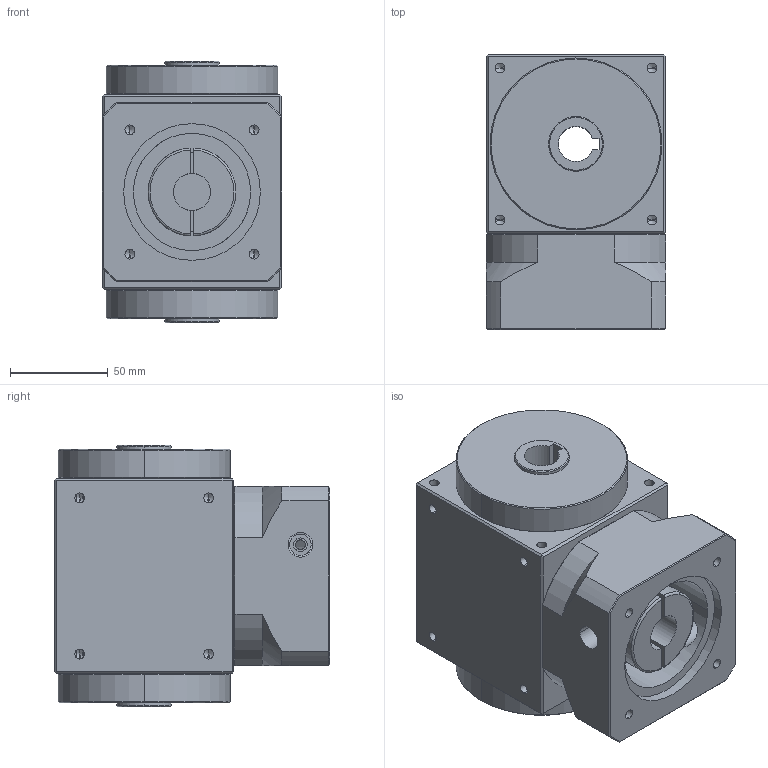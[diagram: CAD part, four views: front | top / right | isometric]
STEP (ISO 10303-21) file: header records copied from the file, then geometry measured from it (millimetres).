
FILE_DESCRIPTION (( 'STEP AP203' ), '1' );
FILE_NAME ('KHT90-H-L0£r70PCD£r90M6.STEP', '2014-03-27T00:36:02', ( 'KELLY' ), ( '' ), 'SwSTEP 2.0', 'SolidWorks 2012', '' );
FILE_SCHEMA (( 'CONFIG_CONTROL_DESIGN' ));
Length unit declared in the file: millimetre
Products named in the file (1): KHT90-H-L0｣r70PCD｣r90M6
Bounding box: 92 x 141 x 134 mm (x, y, z)
Volume: 1291367.2 mm3; surface area: 136102.6 mm2
Topology: 3 solids, 3 shells, 274 faces, 640 edges, 348 vertices
Faces by surface type: cylinder 124, cone 80, plane 66, torus 4
Entity records: 8231 total; most frequent: CARTESIAN_POINT 2213, DIRECTION 1278, ORIENTED_EDGE 1184, EDGE_CURVE 592, AXIS2_PLACEMENT_3D 503, VERTEX_POINT 348, EDGE_LOOP 322, ADVANCED_FACE 274
